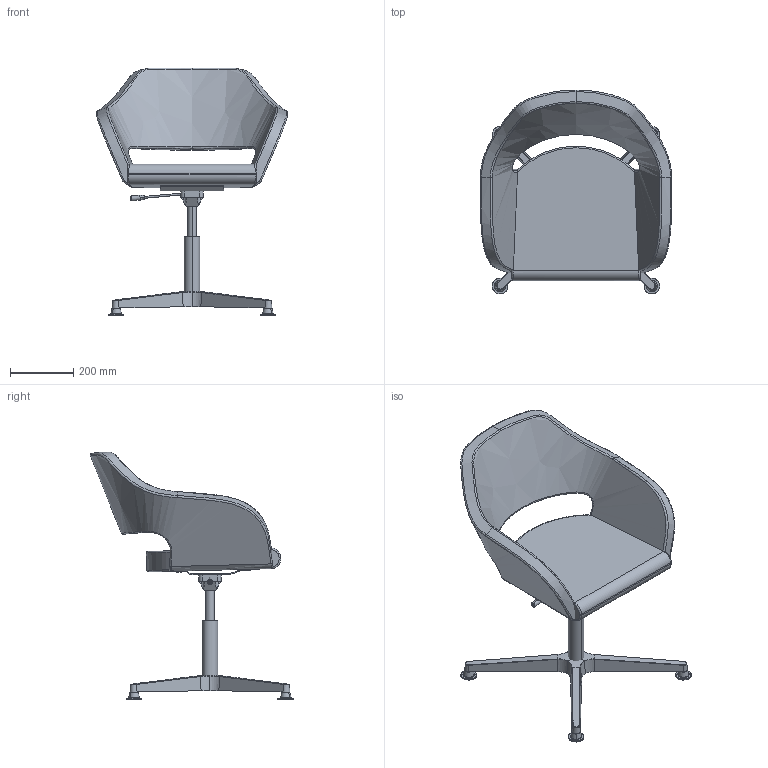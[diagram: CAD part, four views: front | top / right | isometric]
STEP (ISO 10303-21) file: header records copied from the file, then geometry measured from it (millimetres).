
FILE_DESCRIPTION(/* description */ (''),/* implementation_level */ '2;1');
FILE_NAME(/* name */ 'POLO_F~1',/* time_stamp */ '2016-04-13T13:42:48+02:00',/* author */ (''),/* organization */ (''),/* preprocessor_version */ 'ST-DEVELOPER v15',/* originating_system */ '',/* authorisation */ '');
FILE_SCHEMA (('CONFIG_CONTROL_DESIGN'));
Length unit declared in the file: millimetre
Products named in the file (1): Document
Bounding box: 604.9 x 644.6 x 785.02 mm (x, y, z)
Volume: 10599948.3 mm3; surface area: 1421094.3 mm2
Topology: 4 solids, 17 shells, 225 faces, 533 edges, 321 vertices
Faces by surface type: bspline 178, plane 47
Entity records: 10229 total; most frequent: CARTESIAN_POINT 7150, ORIENTED_EDGE 970, EDGE_CURVE 526, VERTEX_POINT 315, B_SPLINE_CURVE_WITH_KNOTS 279, ADVANCED_FACE 225, FACE_OUTER_BOUND 225, EDGE_LOOP 225
